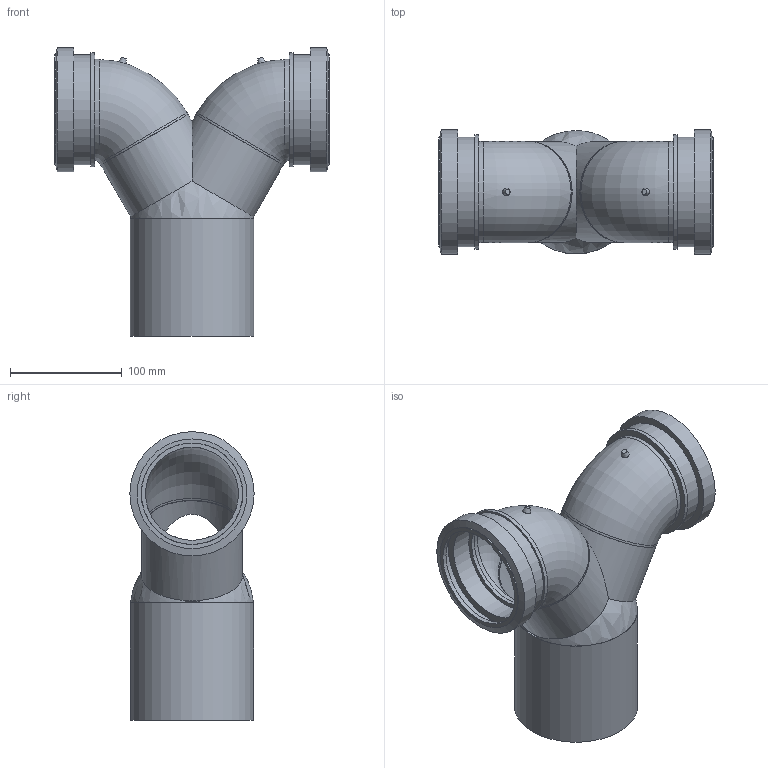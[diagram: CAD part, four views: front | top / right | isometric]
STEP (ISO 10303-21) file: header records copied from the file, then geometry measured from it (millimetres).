
FILE_DESCRIPTION(/* description */ (''),/* implementation_level */ '2;1');
FILE_NAME(/* name */ 'Z:\Geberit\Export\NewStep\Doppelanschlussbogen_Iassembly\stp\310923.stp',/* time_stamp */ '2014-04-03T19:01:01+02:00',/* author */ ('Bründl'),/* organization */ (''),/* preprocessor_version */ 'ST-DEVELOPER v15.2',/* originating_system */ 'Autodesk Inventor 2014',/* authorisation */ '');
FILE_SCHEMA (('AUTOMOTIVE_DESIGN { 1 0 10303 214 3 1 1 }'));
Length unit declared in the file: millimetre
Products named in the file (9): 862647; 863210; 853796; 866646; 387121; 862535; 863215; 861746; 310923
Bounding box: 245.6 x 111 x 257.84 mm (x, y, z)
Volume: 563262.1 mm3; surface area: 270730 mm2
Topology: 6 solids, 6 shells, 65 faces, 128 edges, 82 vertices
Faces by surface type: cylinder 28, plane 25, cone 6, torus 4, sphere 2
Full cylindrical faces by diameter (mm): 82 x2, 83.02 x2, 83.08 x2, 90 x2, 90.38 x6, 90.7 x2, 98 x3, 98.2 x2, 102 x2, 103.7 x2, 110 x1, 111 x2
Entity records: 1085 total; most frequent: DIRECTION 196, CARTESIAN_POINT 180, AXIS2_PLACEMENT_3D 98, ORIENTED_EDGE 84, EDGE_LOOP 78, FACE_BOUND 49, EDGE_CURVE 42, STYLED_ITEM 41
